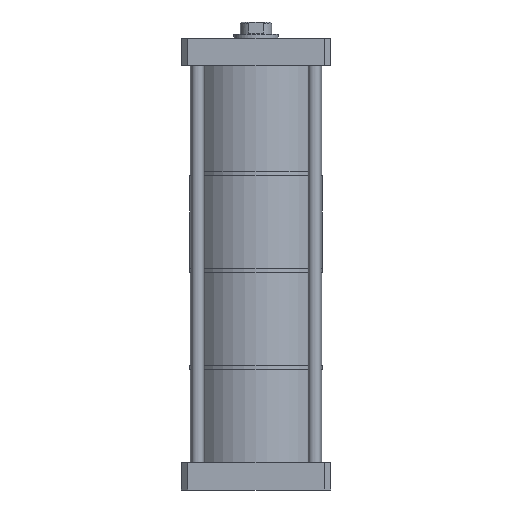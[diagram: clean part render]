
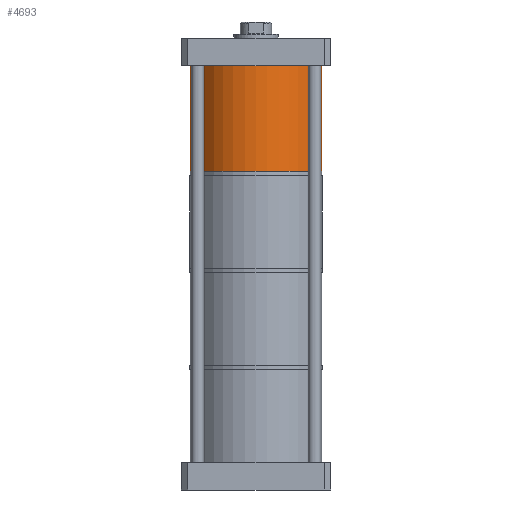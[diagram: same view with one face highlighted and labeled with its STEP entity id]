
A CAD part, front view. The second image highlights one B-rep face of the part: STEP entity #4693.
In plain terms, the highlighted cylindrical face has radius 53 mm (diameter 106 mm), a partial arc.
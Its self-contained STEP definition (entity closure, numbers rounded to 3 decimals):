
#7 = LINE ( 'NONE', #2263, #3932 ) ;
#14 = DIRECTION ( 'NONE',  ( 0., 0., 1. ) ) ;
#117 = DIRECTION ( 'NONE',  ( 0., 0., 1. ) ) ;
#224 = EDGE_CURVE ( 'NONE', #3404, #1443, #7, .T. ) ;
#969 = CARTESIAN_POINT ( 'NONE',  ( -28.254, 0., -85. ) ) ;
#1400 = AXIS2_PLACEMENT_3D ( 'NONE', #2402, #2387, #2379 ) ;
#1443 = VERTEX_POINT ( 'NONE', #4133 ) ;
#1545 = EDGE_LOOP ( 'NONE', ( #3951, #2065, #2051, #3860 ) ) ;
#1600 = FACE_OUTER_BOUND ( 'NONE', #1545, .T. ) ;
#1744 = EDGE_CURVE ( 'NONE', #3229, #1443, #1973, .T. ) ;
#1779 = LINE ( 'NONE', #4682, #3714 ) ;
#1848 = DIRECTION ( 'NONE',  ( -1., 0., 0. ) ) ;
#1862 = DIRECTION ( 'NONE',  ( 0., 0., -1. ) ) ;
#1973 = CIRCLE ( 'NONE', #1400, 53. ) ;
#2051 = ORIENTED_EDGE ( 'NONE', *, *, #4864, .T. ) ;
#2065 = ORIENTED_EDGE ( 'NONE', *, *, #4698, .F. ) ;
#2095 = CARTESIAN_POINT ( 'NONE',  ( 77.746, 0., 0. ) ) ;
#2164 = CARTESIAN_POINT ( 'NONE',  ( 24.746, 0., -85. ) ) ;
#2263 = CARTESIAN_POINT ( 'NONE',  ( -28.254, 0., -85. ) ) ;
#2379 = DIRECTION ( 'NONE',  ( -1., 0., 0. ) ) ;
#2387 = DIRECTION ( 'NONE',  ( 0., 0., -1. ) ) ;
#2402 = CARTESIAN_POINT ( 'NONE',  ( 24.746, 0., 0. ) ) ;
#2992 = DIRECTION ( 'NONE',  ( 0., 0., 1. ) ) ;
#3229 = VERTEX_POINT ( 'NONE', #2095 ) ;
#3321 = DIRECTION ( 'NONE',  ( 1., 0., 0. ) ) ;
#3404 = VERTEX_POINT ( 'NONE', #969 ) ;
#3714 = VECTOR ( 'NONE', #117, 1000. ) ;
#3737 = CARTESIAN_POINT ( 'NONE',  ( 24.746, 0., -85. ) ) ;
#3785 = VERTEX_POINT ( 'NONE', #4938 ) ;
#3860 = ORIENTED_EDGE ( 'NONE', *, *, #1744, .T. ) ;
#3932 = VECTOR ( 'NONE', #14, 1000. ) ;
#3951 = ORIENTED_EDGE ( 'NONE', *, *, #224, .F. ) ;
#4133 = CARTESIAN_POINT ( 'NONE',  ( -28.254, 0., 0. ) ) ;
#4545 = CYLINDRICAL_SURFACE ( 'NONE', #4660, 53. ) ;
#4658 = CIRCLE ( 'NONE', #4762, 53. ) ;
#4660 = AXIS2_PLACEMENT_3D ( 'NONE', #3737, #2992, #3321 ) ;
#4682 = CARTESIAN_POINT ( 'NONE',  ( 77.746, 0., -85. ) ) ;
#4693 = ADVANCED_FACE ( 'NONE', ( #1600 ), #4545, .T. ) ;
#4698 = EDGE_CURVE ( 'NONE', #3785, #3404, #4658, .T. ) ;
#4762 = AXIS2_PLACEMENT_3D ( 'NONE', #2164, #1862, #1848 ) ;
#4864 = EDGE_CURVE ( 'NONE', #3785, #3229, #1779, .T. ) ;
#4938 = CARTESIAN_POINT ( 'NONE',  ( 77.746, 0., -85. ) ) ;
